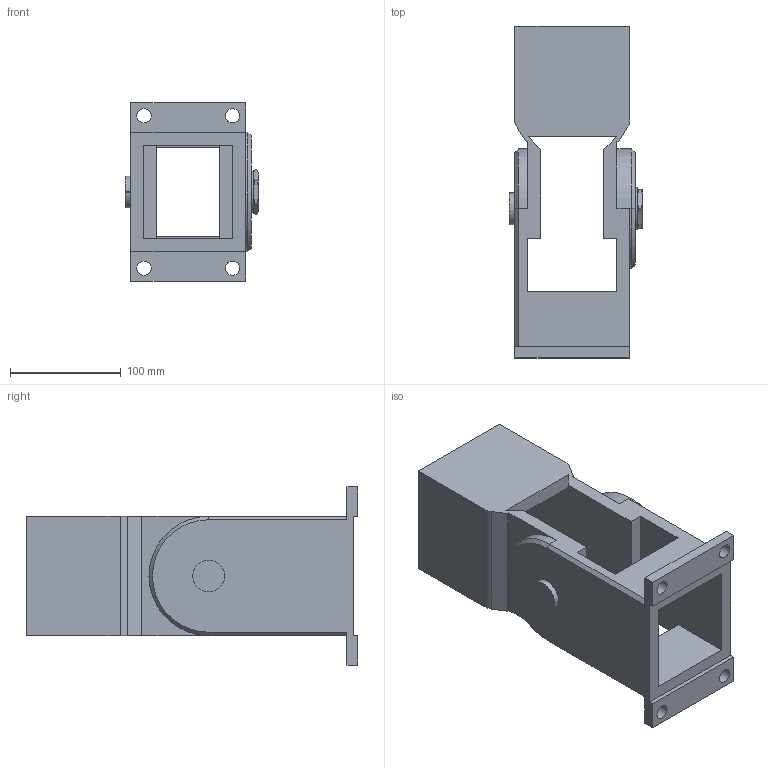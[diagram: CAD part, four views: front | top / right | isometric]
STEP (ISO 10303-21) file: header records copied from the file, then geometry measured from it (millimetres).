
FILE_DESCRIPTION((''),'1');
FILE_NAME('3','2001-04-17T',('jlue'),(''),'PRO/ENGINEER BY PARAMETRIC TECHNOLOGY CORPORATION, 9846','PRO/ENGINEER BY PARAMETRIC TECHNOLOGY CORPORATION, 9846','');
FILE_SCHEMA(('CONFIG_CONTROL_DESIGN'));
Length unit declared in the file: inch
Products named in the file (1): 3
Bounding box: 120.53 x 299.97 x 161.04 mm (x, y, z)
Surface area: 222345.4 mm2 (no closed solid volume)
Topology: 0 solids, 0 shells, 84 faces, 460 edges, 466 vertices
Faces by surface type: plane 52, cylinder 17, cone 15
Entity records: 2421 total; most frequent: COMPOSITE_CURVE_SEGMENT 454, CARTESIAN_POINT 451, DIRECTION 444, TRIMMED_CURVE 215, VECTOR 154, LINE 154, AXIS2_PLACEMENT_3D 145, CURVE_BOUNDED_SURFACE 84
